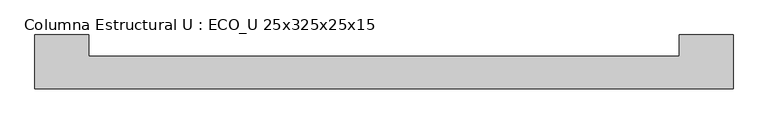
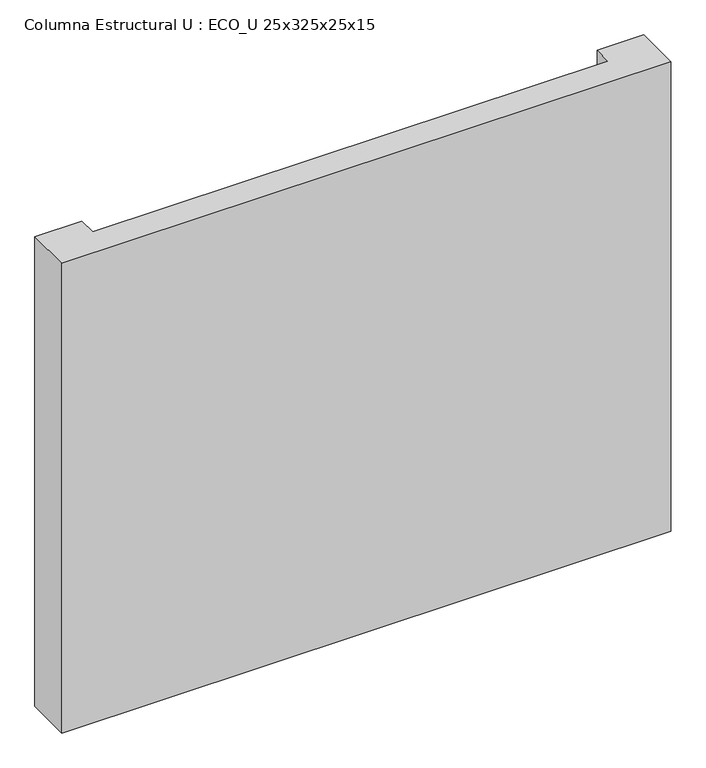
"""IFC4 building model written with IfcOpenShell, lengths in millimetres: column geometry, Columna Estructural U : ECO_U 25x325x25x15."""

from ifc_helpers import new_model, si_unit, frame, origin, place, context, project, spatial, polyline, outline, extrude, source, transform, mapped, element, save


def columna_estructural_u_eco_u_25x325x25x15_0e073354(model_context):
    return source(origin(), model_context, "Body", "SweptSolid", [
        extrude(outline(polyline([(1375.0, 75.0), (1375.0, 175.0), (1625.0, 175.0), (1625.0, -75.0), (-1625.0, -75.0), (-1625.0, 175.0), (-1375.0, 175.0), (-1375.0, 75.0), (1375.0, 75.0)])), frame((0.0, 0.0, 2750.0), z_axis=(0.0, 0.0, 1.0), x_axis=(1.0, 0.0, 0.0)), (0.0, 0.0, 1.0), 2650.0),
    ])


if __name__ == "__main__":
    model = new_model("IFC4")
    model_context = context("Model", 3, world=origin())
    ifc_project = project(units=[si_unit("LENGTHUNIT", "METRE", prefix="MILLI")], contexts=[model_context])
    site = spatial("IfcSite", under=ifc_project)
    building = spatial("IfcBuilding", under=site)
    placement = place(None, origin())
    columna_estructural_u_eco_u_25x325x25x15_shape = columna_estructural_u_eco_u_25x325x25x15_0e073354(model_context)
    element("IfcColumn", 1, ObjectType="Columna Estructural U : ECO_U 25x325x25x15", at=placement, inside=building, context=model_context, shape_type="MappedRepresentation", body=[
        mapped(columna_estructural_u_eco_u_25x325x25x15_shape, transform((0.0, 0.0, 0.0), x_axis=(1.0, 0.0, 0.0), y_axis=(0.0, 1.0, 0.0), z_axis=(0.0, 0.0, 1.0))),
    ])
    save(model, "model.ifc")
